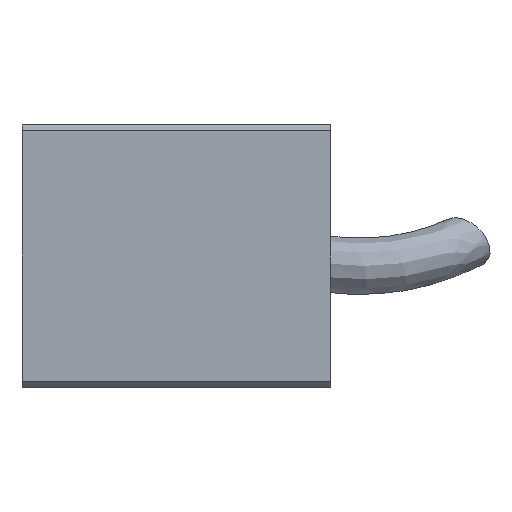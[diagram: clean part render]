
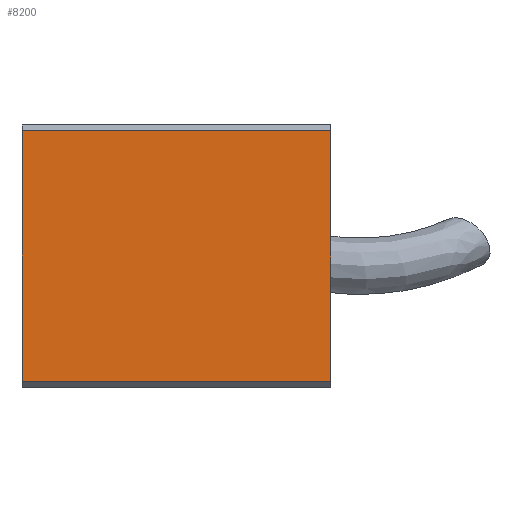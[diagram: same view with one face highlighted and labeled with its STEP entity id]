
A CAD part, front view. The second image highlights one B-rep face of the part: STEP entity #8200.
In plain terms, the highlighted planar face has unit normal (0, -1, 0).
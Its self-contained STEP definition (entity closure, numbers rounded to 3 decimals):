
#767 = ORIENTED_EDGE ( 'NONE', *, *, #3094, .F. ) ;
#1002 = EDGE_LOOP ( 'NONE', ( #2652, #11280, #767, #5303 ) ) ;
#1172 = AXIS2_PLACEMENT_3D ( 'NONE', #4948, #4935, #4924 ) ;
#1415 = CARTESIAN_POINT ( 'NONE',  ( 53., -22.5, 21.5 ) ) ;
#1430 = DIRECTION ( 'NONE',  ( -1., 0., 0. ) ) ;
#1524 = VERTEX_POINT ( 'NONE', #5218 ) ;
#1753 = VERTEX_POINT ( 'NONE', #13665 ) ;
#1860 = CARTESIAN_POINT ( 'NONE',  ( 53., -22.5, 21.5 ) ) ;
#1960 = CARTESIAN_POINT ( 'NONE',  ( 0., -22.5, -21.5 ) ) ;
#2652 = ORIENTED_EDGE ( 'NONE', *, *, #7008, .T. ) ;
#3094 = EDGE_CURVE ( 'NONE', #10945, #1753, #10311, .T. ) ;
#3538 = VECTOR ( 'NONE', #9026, 1000. ) ;
#3616 = VECTOR ( 'NONE', #12170, 1000. ) ;
#3737 = FACE_OUTER_BOUND ( 'NONE', #1002, .T. ) ;
#3767 = DIRECTION ( 'NONE',  ( 0., 0., -1. ) ) ;
#3778 = CARTESIAN_POINT ( 'NONE',  ( 53., -22.5, 22.5 ) ) ;
#3861 = LINE ( 'NONE', #8834, #3538 ) ;
#4567 = VECTOR ( 'NONE', #3767, 1000. ) ;
#4924 = DIRECTION ( 'NONE',  ( 0., 0., 1. ) ) ;
#4935 = DIRECTION ( 'NONE',  ( 0., 1., 0. ) ) ;
#4948 = CARTESIAN_POINT ( 'NONE',  ( 53., -22.5, 22.5 ) ) ;
#5218 = CARTESIAN_POINT ( 'NONE',  ( 0., -22.5, 21.5 ) ) ;
#5303 = ORIENTED_EDGE ( 'NONE', *, *, #8772, .T. ) ;
#6488 = LINE ( 'NONE', #12258, #3616 ) ;
#7008 = EDGE_CURVE ( 'NONE', #1524, #13104, #6488, .T. ) ;
#7262 = LINE ( 'NONE', #1415, #10118 ) ;
#8143 = PLANE ( 'NONE',  #1172 ) ;
#8200 = ADVANCED_FACE ( 'NONE', ( #3737 ), #8143, .F. ) ;
#8772 = EDGE_CURVE ( 'NONE', #10945, #1524, #7262, .T. ) ;
#8834 = CARTESIAN_POINT ( 'NONE',  ( 53., -22.5, -21.5 ) ) ;
#9026 = DIRECTION ( 'NONE',  ( 1., 0., 0. ) ) ;
#10023 = EDGE_CURVE ( 'NONE', #13104, #1753, #3861, .T. ) ;
#10118 = VECTOR ( 'NONE', #1430, 1000. ) ;
#10311 = LINE ( 'NONE', #3778, #4567 ) ;
#10945 = VERTEX_POINT ( 'NONE', #1860 ) ;
#11280 = ORIENTED_EDGE ( 'NONE', *, *, #10023, .T. ) ;
#12170 = DIRECTION ( 'NONE',  ( 0., 0., -1. ) ) ;
#12258 = CARTESIAN_POINT ( 'NONE',  ( 0., -22.5, 22.5 ) ) ;
#13104 = VERTEX_POINT ( 'NONE', #1960 ) ;
#13665 = CARTESIAN_POINT ( 'NONE',  ( 53., -22.5, -21.5 ) ) ;
